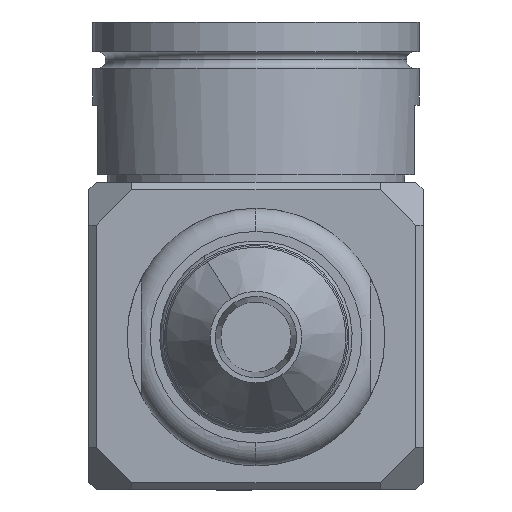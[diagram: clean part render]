
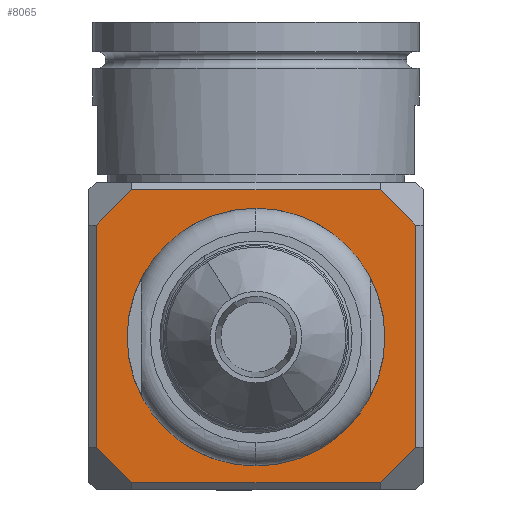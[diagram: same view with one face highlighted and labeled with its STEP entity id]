
A CAD part, front view. The second image highlights one B-rep face of the part: STEP entity #8065.
In plain terms, the highlighted planar face has unit normal (0, -1, 0).
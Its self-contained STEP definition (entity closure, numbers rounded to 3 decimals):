
#3 = EDGE_CURVE ( 'NONE', #2872, #2291, #11402, .T. ) ;
#217 = VERTEX_POINT ( 'NONE', #1825 ) ;
#255 = DIRECTION ( 'NONE',  ( 0., 0., 1. ) ) ;
#302 = ORIENTED_EDGE ( 'NONE', *, *, #3, .T. ) ;
#379 = CARTESIAN_POINT ( 'NONE',  ( -17.094, -23.724, -54.94 ) ) ;
#484 = VECTOR ( 'NONE', #1668, 1000. ) ;
#541 = CARTESIAN_POINT ( 'NONE',  ( -17.094, -23.724, -14.732 ) ) ;
#647 = VECTOR ( 'NONE', #7562, 1000. ) ;
#814 = AXIS2_PLACEMENT_3D ( 'NONE', #8346, #12017, #3406 ) ;
#841 = ORIENTED_EDGE ( 'NONE', *, *, #11513, .T. ) ;
#1266 = LINE ( 'NONE', #10951, #12155 ) ;
#1448 = VECTOR ( 'NONE', #4564, 1000. ) ;
#1668 = DIRECTION ( 'NONE',  ( 0., 0., -1. ) ) ;
#1825 = CARTESIAN_POINT ( 'NONE',  ( -21.933, -23.724, -50.101 ) ) ;
#1827 = CIRCLE ( 'NONE', #10721, 16.929 ) ;
#1838 = VERTEX_POINT ( 'NONE', #6759 ) ;
#1965 = CARTESIAN_POINT ( 'NONE',  ( 17.094, -23.724, -54.94 ) ) ;
#2093 = CARTESIAN_POINT ( 'NONE',  ( 17.094, -23.724, -14.732 ) ) ;
#2273 = DIRECTION ( 'NONE',  ( 0., 0., 1. ) ) ;
#2291 = VERTEX_POINT ( 'NONE', #541 ) ;
#2789 = DIRECTION ( 'NONE',  ( -1., 0., 0. ) ) ;
#2856 = CARTESIAN_POINT ( 'NONE',  ( -22.949, -23.724, -14.732 ) ) ;
#2872 = VERTEX_POINT ( 'NONE', #2093 ) ;
#3064 = VECTOR ( 'NONE', #3652, 1000. ) ;
#3406 = DIRECTION ( 'NONE',  ( 0., 0., -1. ) ) ;
#3440 = LINE ( 'NONE', #11226, #647 ) ;
#3626 = CARTESIAN_POINT ( 'NONE',  ( -21.933, -23.724, -55.956 ) ) ;
#3652 = DIRECTION ( 'NONE',  ( 1., 0., 0. ) ) ;
#3692 = ORIENTED_EDGE ( 'NONE', *, *, #7868, .T. ) ;
#3788 = CARTESIAN_POINT ( 'NONE',  ( 22.949, -23.724, -54.94 ) ) ;
#3981 = CARTESIAN_POINT ( 'NONE',  ( 0., -23.724, -34.963 ) ) ;
#4233 = VECTOR ( 'NONE', #4561, 1000. ) ;
#4330 = EDGE_CURVE ( 'NONE', #11541, #10431, #8539, .T. ) ;
#4561 = DIRECTION ( 'NONE',  ( 0.707, 0., 0.707 ) ) ;
#4564 = DIRECTION ( 'NONE',  ( -0.707, 0., 0.707 ) ) ;
#4624 = CARTESIAN_POINT ( 'NONE',  ( 27.127, -23.724, -24.765 ) ) ;
#4888 = EDGE_CURVE ( 'NONE', #2291, #5154, #3440, .T. ) ;
#4900 = VERTEX_POINT ( 'NONE', #6413 ) ;
#5154 = VERTEX_POINT ( 'NONE', #7263 ) ;
#5487 = FACE_BOUND ( 'NONE', #12440, .T. ) ;
#5952 = ORIENTED_EDGE ( 'NONE', *, *, #11016, .T. ) ;
#6012 = ORIENTED_EDGE ( 'NONE', *, *, #4330, .T. ) ;
#6214 = DIRECTION ( 'NONE',  ( 0.707, 0., -0.707 ) ) ;
#6319 = PLANE ( 'NONE',  #814 ) ;
#6413 = CARTESIAN_POINT ( 'NONE',  ( 21.933, -23.724, -50.101 ) ) ;
#6613 = LINE ( 'NONE', #3626, #484 ) ;
#6732 = EDGE_CURVE ( 'NONE', #10431, #4900, #12407, .T. ) ;
#6759 = CARTESIAN_POINT ( 'NONE',  ( 0., -23.724, -18.034 ) ) ;
#7020 = EDGE_LOOP ( 'NONE', ( #7854, #5952, #6012, #9083, #841, #9721, #302, #10077 ) ) ;
#7041 = LINE ( 'NONE', #9891, #7721 ) ;
#7087 = CIRCLE ( 'NONE', #9097, 16.929 ) ;
#7098 = CARTESIAN_POINT ( 'NONE',  ( 0., -23.724, -34.963 ) ) ;
#7263 = CARTESIAN_POINT ( 'NONE',  ( -21.933, -23.724, -19.571 ) ) ;
#7503 = EDGE_CURVE ( 'NONE', #1838, #11448, #7087, .T. ) ;
#7562 = DIRECTION ( 'NONE',  ( -0.707, 0., -0.707 ) ) ;
#7608 = CARTESIAN_POINT ( 'NONE',  ( 10.071, -23.724, -61.963 ) ) ;
#7721 = VECTOR ( 'NONE', #6214, 1000. ) ;
#7794 = DIRECTION ( 'NONE',  ( 0., 0., 1. ) ) ;
#7854 = ORIENTED_EDGE ( 'NONE', *, *, #8557, .T. ) ;
#7868 = EDGE_CURVE ( 'NONE', #11448, #1838, #1827, .T. ) ;
#7933 = ORIENTED_EDGE ( 'NONE', *, *, #7503, .T. ) ;
#8065 = ADVANCED_FACE ( 'NONE', ( #5487, #9235 ), #6319, .T. ) ;
#8303 = LINE ( 'NONE', #4624, #1448 ) ;
#8346 = CARTESIAN_POINT ( 'NONE',  ( 0., -23.724, -51.892 ) ) ;
#8496 = CARTESIAN_POINT ( 'NONE',  ( 21.933, -23.724, -19.571 ) ) ;
#8539 = LINE ( 'NONE', #3788, #3064 ) ;
#8557 = EDGE_CURVE ( 'NONE', #5154, #217, #6613, .T. ) ;
#8935 = DIRECTION ( 'NONE',  ( 0., 1., 0. ) ) ;
#9083 = ORIENTED_EDGE ( 'NONE', *, *, #6732, .T. ) ;
#9097 = AXIS2_PLACEMENT_3D ( 'NONE', #7098, #8935, #255 ) ;
#9235 = FACE_OUTER_BOUND ( 'NONE', #7020, .T. ) ;
#9447 = VECTOR ( 'NONE', #2789, 1000. ) ;
#9721 = ORIENTED_EDGE ( 'NONE', *, *, #11202, .T. ) ;
#9891 = CARTESIAN_POINT ( 'NONE',  ( -10.071, -23.724, -61.963 ) ) ;
#10077 = ORIENTED_EDGE ( 'NONE', *, *, #4888, .T. ) ;
#10327 = VERTEX_POINT ( 'NONE', #8496 ) ;
#10431 = VERTEX_POINT ( 'NONE', #1965 ) ;
#10721 = AXIS2_PLACEMENT_3D ( 'NONE', #3981, #11765, #7794 ) ;
#10951 = CARTESIAN_POINT ( 'NONE',  ( 21.933, -23.724, -13.716 ) ) ;
#11016 = EDGE_CURVE ( 'NONE', #217, #11541, #7041, .T. ) ;
#11202 = EDGE_CURVE ( 'NONE', #10327, #2872, #8303, .T. ) ;
#11226 = CARTESIAN_POINT ( 'NONE',  ( -27.127, -23.724, -24.765 ) ) ;
#11402 = LINE ( 'NONE', #2856, #9447 ) ;
#11448 = VERTEX_POINT ( 'NONE', #11461 ) ;
#11461 = CARTESIAN_POINT ( 'NONE',  ( 0., -23.724, -51.892 ) ) ;
#11513 = EDGE_CURVE ( 'NONE', #4900, #10327, #1266, .T. ) ;
#11541 = VERTEX_POINT ( 'NONE', #379 ) ;
#11765 = DIRECTION ( 'NONE',  ( 0., 1., 0. ) ) ;
#12017 = DIRECTION ( 'NONE',  ( 0., -1., 0. ) ) ;
#12155 = VECTOR ( 'NONE', #2273, 1000. ) ;
#12407 = LINE ( 'NONE', #7608, #4233 ) ;
#12440 = EDGE_LOOP ( 'NONE', ( #7933, #3692 ) ) ;
